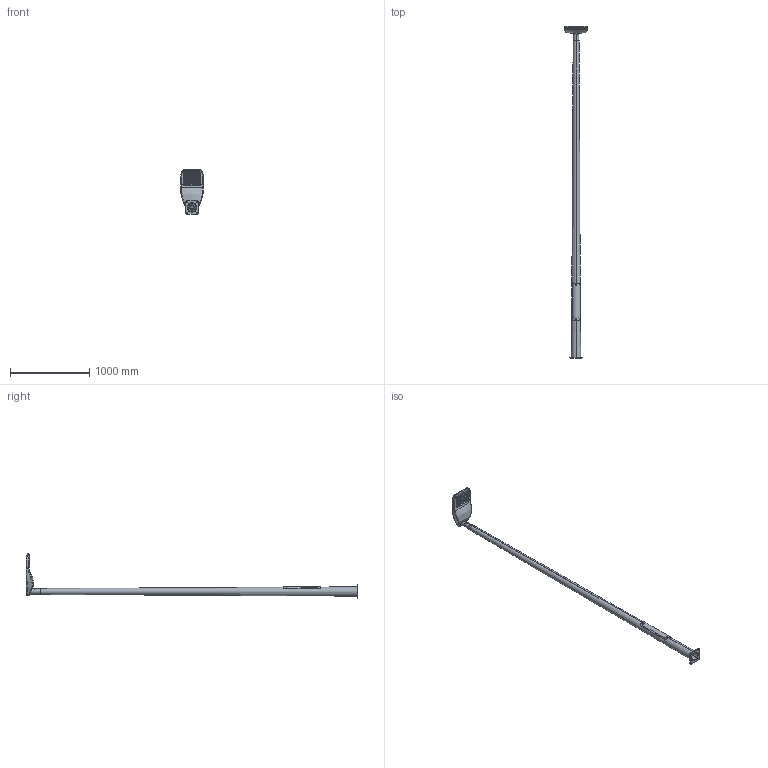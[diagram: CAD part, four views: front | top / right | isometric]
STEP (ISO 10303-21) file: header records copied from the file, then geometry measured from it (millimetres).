
FILE_DESCRIPTION (( 'STEP AP214' ), '1' );
FILE_NAME ('verta-1-4(60)-(Ê170-130-4õ14)-ö+ïî.STEP', '2021-07-13T08:21:49', ( '' ), ( '' ), 'SwSTEP 2.0', 'SolidWorks 2020', '' );
FILE_SCHEMA (( 'AUTOMOTIVE_DESIGN' ));
Length unit declared in the file: millimetre
Products named in the file (14): 170õ170õ10 (121),ì.ö.130, 4õ14_Ôëàíåö; DIN-ðåéêà_ŽƒŠ-6; Ñòàíäàðíûå_Ðåçüáîâàÿ çàêë¸ïêà Ì6_Šàã£« ï à¥§ì¡®¢ ï § ª«¥¯ª  Œ8 á æ¨«¨­¤à¨ç¥áª¨¬ ¡ãàâ®¬ ®âªàëâ®£® â¨¯  ¨§ ­¥à¦ ¢¥îé¥© áâ «¨; 栺鍣罻-verta-4; 署赅 膻赅-verta-4; Ïëàíêà çàçåìëåíèÿ 35õ20; ﾂ褞 40-60 ﾂ90 胙琅; ﾒ矜-verta-4; 膴樖錼膻嬅90 蜸馯; Îïîðà verta-1-4(60)-(Ê170-130-4õ14)-ãö+ïî; verta-1-4(60)-(Ê170-130-4õ14)-ö+ïî; socket button head screw_iso_ISO 7380 - M6 x 16 - 16N; SL7503-疋弪桦桕_2
Assembly tree (15 placements, depth 4):
  verta-1-4(60)-(Ê170-130-4õ14)-ö+ïî
    Îïîðà verta-1-4(60)-(Ê170-130-4õ14)-ãö+ïî
      栺鍣罻-verta-4
        栺鍣罻-verta-4
        170õ170õ10 (121),ì.ö.130, 4õ14_Ôëàíåö
        Ïëàíêà çàçåìëåíèÿ 35õ20
        DIN-ðåéêà_ŽƒŠ-6
        ﾒ矜-verta-4
      署赅 膻赅-verta-4
      Ñòàíäàðíûå_Ðåçüáîâàÿ çàêë¸ïêà Ì6_Šàã£« ï à¥§ì¡®¢ ï § ª«¥¯ª  Œ8 á æ¨«¨­¤à¨ç¥áª¨¬ ¡ãàâ®¬ ®âªàëâ®£® â¨¯  ¨§ ­¥à¦ ¢¥îé¥© áâ «¨  x2
      socket button head screw_iso_ISO 7380 - M6 x 16 - 16N  x2
    ﾂ褞 40-60 ﾂ90 胙琅
      SL7503-疋弪桦桕_2
      膴樖錼膻嬅90 蜸馯
Bounding box: 288.07 x 4187.42 x 560.8 mm (x, y, z)
Volume: 9625418.9 mm3; surface area: 2980222.3 mm2
Topology: 12 solids, 12 shells, 591 faces, 1392 edges, 878 vertices
Faces by surface type: plane 237, cone 140, cylinder 127, bspline 50, torus 25, sphere 12
Entity records: 28914 total; most frequent: CARTESIAN_POINT 13751, DIRECTION 2590, ORIENTED_EDGE 2556, EDGE_CURVE 1278, AXIS2_PLACEMENT_3D 989, VERTEX_POINT 817, EDGE_LOOP 633, VECTOR 612
